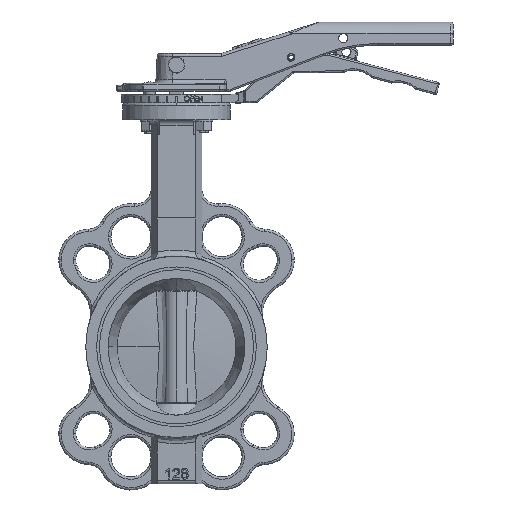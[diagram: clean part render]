
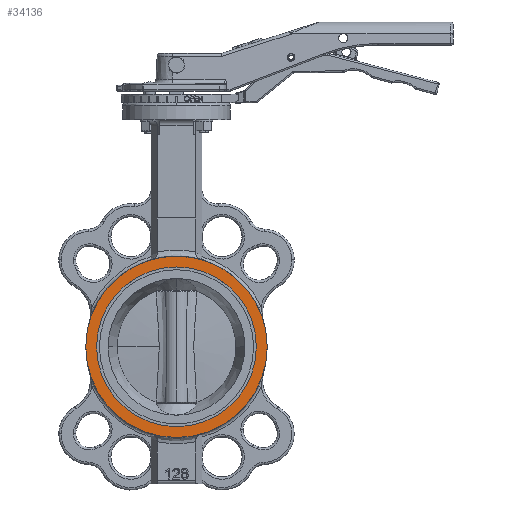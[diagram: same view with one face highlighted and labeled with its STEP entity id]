
A CAD part, top view. The second image highlights one B-rep face of the part: STEP entity #34136.
In plain terms, the highlighted planar face has unit normal (0, 0, 1).
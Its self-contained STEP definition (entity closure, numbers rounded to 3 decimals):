
#987 = DIRECTION ( 'NONE',  ( -1., 0., 0. ) ) ;
#1217 = CARTESIAN_POINT ( 'NONE',  ( 0., 0., 22.6 ) ) ;
#2929 = CIRCLE ( 'NONE', #36599, 59. ) ;
#4448 = CIRCLE ( 'NONE', #36965, 59. ) ;
#11664 = AXIS2_PLACEMENT_3D ( 'NONE', #70747, #54749, #21688 ) ;
#12103 = DIRECTION ( 'NONE',  ( 0., 0., 1. ) ) ;
#12338 = AXIS2_PLACEMENT_3D ( 'NONE', #1217, #12103, #987 ) ;
#12668 = CARTESIAN_POINT ( 'NONE',  ( -51.95, 0., 22.6 ) ) ;
#14195 = ORIENTED_EDGE ( 'NONE', *, *, #65367, .F. ) ;
#17516 = FACE_OUTER_BOUND ( 'NONE', #66753, .T. ) ;
#20483 = AXIS2_PLACEMENT_3D ( 'NONE', #23481, #67576, #40157 ) ;
#21688 = DIRECTION ( 'NONE',  ( -1., 0., 0. ) ) ;
#21776 = CARTESIAN_POINT ( 'NONE',  ( -59., 0., 22.6 ) ) ;
#22318 = ORIENTED_EDGE ( 'NONE', *, *, #41892, .T. ) ;
#22648 = DIRECTION ( 'NONE',  ( 0., 0., 1. ) ) ;
#23481 = CARTESIAN_POINT ( 'NONE',  ( -59.708, -59.708, 22.6 ) ) ;
#23668 = ORIENTED_EDGE ( 'NONE', *, *, #26900, .F. ) ;
#23907 = VERTEX_POINT ( 'NONE', #29307 ) ;
#24131 = DIRECTION ( 'NONE',  ( -1., 0., 0. ) ) ;
#26900 = EDGE_CURVE ( 'NONE', #23907, #49865, #39327, .T. ) ;
#27036 = FACE_BOUND ( 'NONE', #33082, .T. ) ;
#27500 = ORIENTED_EDGE ( 'NONE', *, *, #62425, .T. ) ;
#29307 = CARTESIAN_POINT ( 'NONE',  ( 51.95, 0., 22.6 ) ) ;
#29622 = VERTEX_POINT ( 'NONE', #53504 ) ;
#33082 = EDGE_LOOP ( 'NONE', ( #14195, #23668 ) ) ;
#34010 = CARTESIAN_POINT ( 'NONE',  ( 0., 0., 22.6 ) ) ;
#34136 = ADVANCED_FACE ( 'NONE', ( #27036, #17516 ), #56580, .T. ) ;
#36599 = AXIS2_PLACEMENT_3D ( 'NONE', #34010, #22648, #56437 ) ;
#36965 = AXIS2_PLACEMENT_3D ( 'NONE', #61007, #51910, #24131 ) ;
#39327 = CIRCLE ( 'NONE', #12338, 51.95 ) ;
#40157 = DIRECTION ( 'NONE',  ( 1., 0., 0. ) ) ;
#41600 = CIRCLE ( 'NONE', #11664, 51.95 ) ;
#41892 = EDGE_CURVE ( 'NONE', #29622, #43908, #4448, .T. ) ;
#43908 = VERTEX_POINT ( 'NONE', #21776 ) ;
#49865 = VERTEX_POINT ( 'NONE', #12668 ) ;
#51910 = DIRECTION ( 'NONE',  ( 0., 0., 1. ) ) ;
#53504 = CARTESIAN_POINT ( 'NONE',  ( 59., 0., 22.6 ) ) ;
#54749 = DIRECTION ( 'NONE',  ( 0., 0., 1. ) ) ;
#56437 = DIRECTION ( 'NONE',  ( -1., 0., 0. ) ) ;
#56580 = PLANE ( 'NONE',  #20483 ) ;
#61007 = CARTESIAN_POINT ( 'NONE',  ( 0., 0., 22.6 ) ) ;
#62425 = EDGE_CURVE ( 'NONE', #43908, #29622, #2929, .T. ) ;
#65367 = EDGE_CURVE ( 'NONE', #49865, #23907, #41600, .T. ) ;
#66753 = EDGE_LOOP ( 'NONE', ( #27500, #22318 ) ) ;
#67576 = DIRECTION ( 'NONE',  ( 0., 0., 1. ) ) ;
#70747 = CARTESIAN_POINT ( 'NONE',  ( 0., 0., 22.6 ) ) ;
